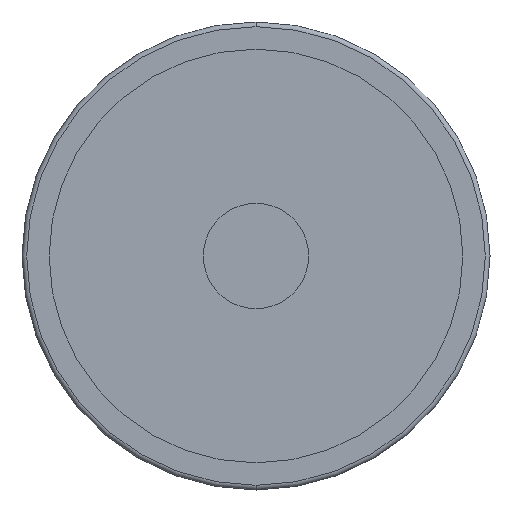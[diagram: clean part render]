
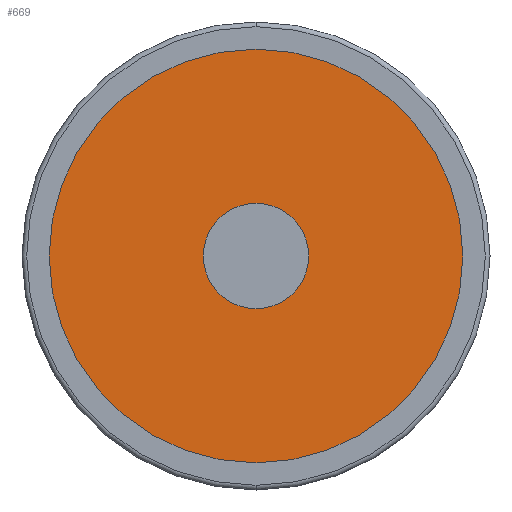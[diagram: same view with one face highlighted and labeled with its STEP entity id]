
A CAD part, front view. The second image highlights one B-rep face of the part: STEP entity #669.
In plain terms, the highlighted planar face has unit normal (0, -1, 0).
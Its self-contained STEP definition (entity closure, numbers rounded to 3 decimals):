
#12 = ORIENTED_EDGE ( 'NONE', *, *, #332, .T. ) ;
#23 = EDGE_LOOP ( 'NONE', ( #1584, #1476 ) ) ;
#58 = DIRECTION ( 'NONE',  ( 1., 0., 0. ) ) ;
#128 = CIRCLE ( 'NONE', #1515, 10.25 ) ;
#199 = FACE_OUTER_BOUND ( 'NONE', #1521, .T. ) ;
#332 = EDGE_CURVE ( 'NONE', #2273, #1701, #1541, .T. ) ;
#340 = CIRCLE ( 'NONE', #2120, 44.3 ) ;
#478 = AXIS2_PLACEMENT_3D ( 'NONE', #1719, #975, #58 ) ;
#595 = AXIS2_PLACEMENT_3D ( 'NONE', #1139, #1716, #973 ) ;
#602 = AXIS2_PLACEMENT_3D ( 'NONE', #1700, #2294, #1149 ) ;
#669 = ADVANCED_FACE ( 'NONE', ( #199, #1524 ), #939, .T. ) ;
#686 = CARTESIAN_POINT ( 'NONE',  ( 0., 4.5, 0. ) ) ;
#725 = DIRECTION ( 'NONE',  ( 1., 0., 0. ) ) ;
#939 = PLANE ( 'NONE',  #595 ) ;
#973 = DIRECTION ( 'NONE',  ( 1., 0., 0. ) ) ;
#975 = DIRECTION ( 'NONE',  ( 0., -1., 0. ) ) ;
#1139 = CARTESIAN_POINT ( 'NONE',  ( -44.3, 4.5, 0. ) ) ;
#1149 = DIRECTION ( 'NONE',  ( 1., 0., 0. ) ) ;
#1151 = DIRECTION ( 'NONE',  ( 1., 0., 0. ) ) ;
#1164 = CARTESIAN_POINT ( 'NONE',  ( 0., 4.5, 0. ) ) ;
#1175 = DIRECTION ( 'NONE',  ( 0., -1., 0. ) ) ;
#1443 = DIRECTION ( 'NONE',  ( 0., -1., 0. ) ) ;
#1476 = ORIENTED_EDGE ( 'NONE', *, *, #2392, .F. ) ;
#1515 = AXIS2_PLACEMENT_3D ( 'NONE', #1164, #1175, #1151 ) ;
#1521 = EDGE_LOOP ( 'NONE', ( #12, #1667 ) ) ;
#1524 = FACE_BOUND ( 'NONE', #23, .T. ) ;
#1528 = EDGE_CURVE ( 'NONE', #1600, #1605, #1688, .T. ) ;
#1541 = CIRCLE ( 'NONE', #478, 44.3 ) ;
#1584 = ORIENTED_EDGE ( 'NONE', *, *, #1528, .F. ) ;
#1600 = VERTEX_POINT ( 'NONE', #2475 ) ;
#1605 = VERTEX_POINT ( 'NONE', #1757 ) ;
#1667 = ORIENTED_EDGE ( 'NONE', *, *, #1729, .T. ) ;
#1675 = CARTESIAN_POINT ( 'NONE',  ( 44.3, 4.5, 0. ) ) ;
#1688 = CIRCLE ( 'NONE', #602, 10.25 ) ;
#1700 = CARTESIAN_POINT ( 'NONE',  ( 0., 4.5, 0. ) ) ;
#1701 = VERTEX_POINT ( 'NONE', #1675 ) ;
#1716 = DIRECTION ( 'NONE',  ( 0., -1., 0. ) ) ;
#1719 = CARTESIAN_POINT ( 'NONE',  ( 0., 4.5, 0. ) ) ;
#1729 = EDGE_CURVE ( 'NONE', #1701, #2273, #340, .T. ) ;
#1757 = CARTESIAN_POINT ( 'NONE',  ( -10.25, 4.5, 0. ) ) ;
#2120 = AXIS2_PLACEMENT_3D ( 'NONE', #686, #1443, #725 ) ;
#2273 = VERTEX_POINT ( 'NONE', #2413 ) ;
#2294 = DIRECTION ( 'NONE',  ( 0., -1., 0. ) ) ;
#2392 = EDGE_CURVE ( 'NONE', #1605, #1600, #128, .T. ) ;
#2413 = CARTESIAN_POINT ( 'NONE',  ( -44.3, 4.5, 0. ) ) ;
#2475 = CARTESIAN_POINT ( 'NONE',  ( 10.25, 4.5, 0. ) ) ;
